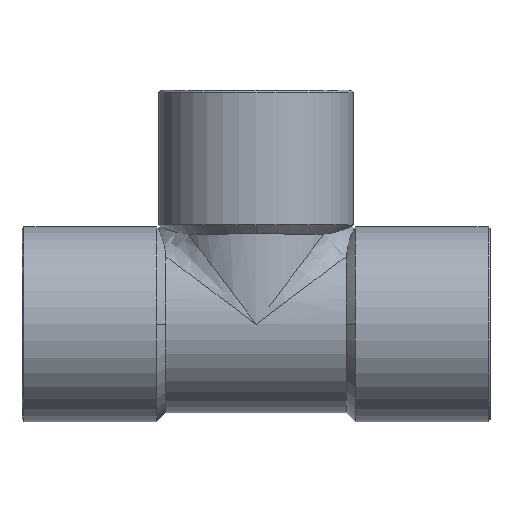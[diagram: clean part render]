
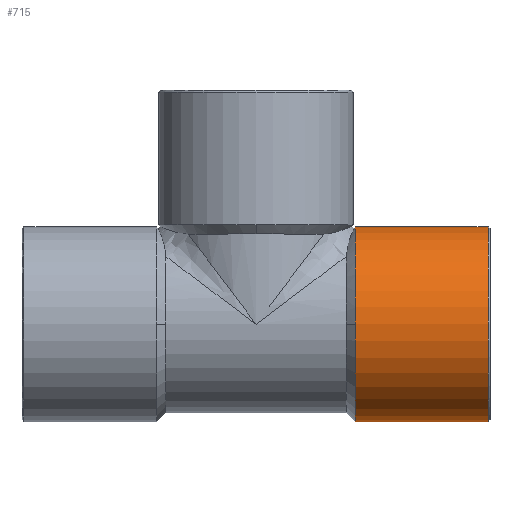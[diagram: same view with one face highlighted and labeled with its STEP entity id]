
A CAD part, top view. The second image highlights one B-rep face of the part: STEP entity #715.
In plain terms, the highlighted cylindrical face has radius 10 mm (diameter 20 mm), a partial arc.
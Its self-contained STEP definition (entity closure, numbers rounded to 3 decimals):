
#59=CARTESIAN_POINT('',(10.2,-10.0,0.));
#60=VERTEX_POINT('',#59);
#68=CARTESIAN_POINT('',(10.2,0.,10.0));
#69=VERTEX_POINT('',#68);
#70=CARTESIAN_POINT('',(10.2,0.0,0.0));
#71=DIRECTION('',(1.0,0.0,0.0));
#72=DIRECTION('',(0.0,1.0,0.0));
#73=AXIS2_PLACEMENT_3D('',#70,#71,#72);
#74=CIRCLE('',#73,10.0);
#75=EDGE_CURVE('',#69,#60,#74,.T.);
#675=CARTESIAN_POINT('',(17.1,0.0,0.0));
#676=DIRECTION('',(1.0,0.0,0.0));
#677=DIRECTION('',(0.0,1.0,0.0));
#678=AXIS2_PLACEMENT_3D('',#675,#676,#677);
#679=CYLINDRICAL_SURFACE('',#678,10.);
#680=CARTESIAN_POINT('',(10.2,10.0,0.0));
#681=VERTEX_POINT('',#680);
#682=CARTESIAN_POINT('',(23.8,10.,0.));
#683=VERTEX_POINT('',#682);
#684=CARTESIAN_POINT('',(10.2,10.0,0.0));
#685=DIRECTION('',(1.0,0.0,0.0));
#686=VECTOR('',#685,13.6);
#687=LINE('',#684,#686);
#688=EDGE_CURVE('',#681,#683,#687,.T.);
#689=ORIENTED_EDGE('',*,*,#688,.F.);
#690=CARTESIAN_POINT('',(10.2,0.0,0.0));
#691=DIRECTION('',(1.0,0.0,0.0));
#692=DIRECTION('',(0.0,1.0,0.0));
#693=AXIS2_PLACEMENT_3D('',#690,#691,#692);
#694=CIRCLE('',#693,10.0);
#695=EDGE_CURVE('',#681,#69,#694,.T.);
#696=ORIENTED_EDGE('',*,*,#695,.T.);
#697=ORIENTED_EDGE('',*,*,#75,.T.);
#698=CARTESIAN_POINT('',(23.8,-10.,0.));
#699=VERTEX_POINT('',#698);
#700=CARTESIAN_POINT('',(23.8,-10.,0.));
#701=DIRECTION('',(-1.0,0.0,0.0));
#702=VECTOR('',#701,13.6);
#703=LINE('',#700,#702);
#704=EDGE_CURVE('',#699,#60,#703,.T.);
#705=ORIENTED_EDGE('',*,*,#704,.F.);
#706=CARTESIAN_POINT('',(23.8,0.0,0.0));
#707=DIRECTION('',(1.0,0.0,0.0));
#708=DIRECTION('',(0.0,-1.0,0.0));
#709=AXIS2_PLACEMENT_3D('',#706,#707,#708);
#710=CIRCLE('',#709,10.);
#711=EDGE_CURVE('',#683,#699,#710,.T.);
#712=ORIENTED_EDGE('',*,*,#711,.F.);
#713=EDGE_LOOP('',(#689,#696,#697,#705,#712));
#714=FACE_OUTER_BOUND('',#713,.T.);
#715=ADVANCED_FACE('',(#714),#679,.T.);
